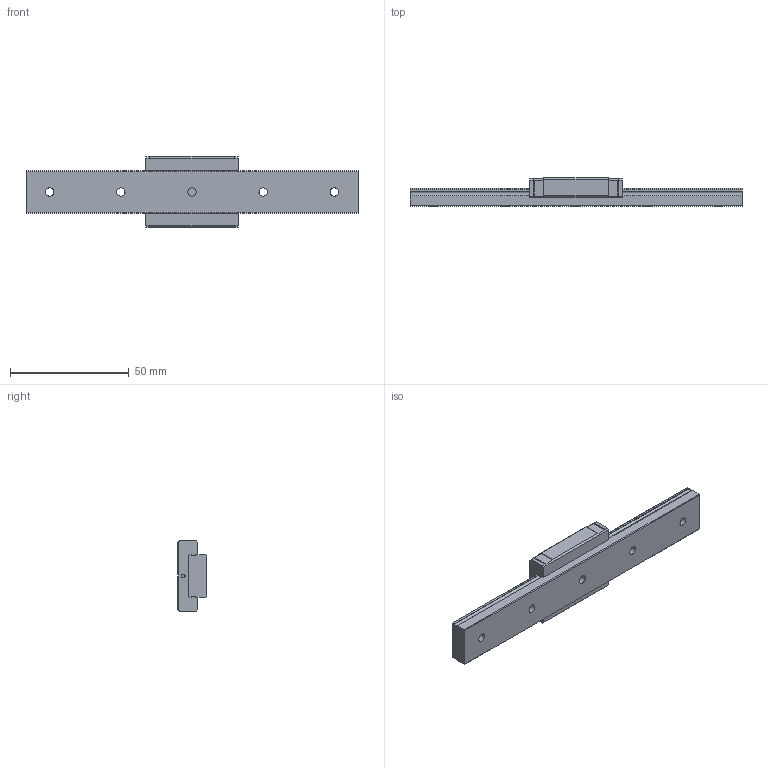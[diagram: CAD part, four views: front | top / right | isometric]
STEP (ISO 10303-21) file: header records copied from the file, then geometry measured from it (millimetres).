
FILE_DESCRIPTION(/* description */ ('STEP AP203'),/* implementation_level */ '2;1');
FILE_NAME(/* name */ 'RSX9M1WUUE-140LM_G10_0_Without grease nipple_50-5_0_0_0_1',/* time_stamp */ '2024-05-23T08:36:47+02:00',/* author */ ('License CC BY-ND 4.0'),/* organization */ ('CADENAS'),/* preprocessor_version */ 'ST-DEVELOPER v19.3',/* originating_system */ 'PARTsolutions',/* authorisation */ ' ');
FILE_SCHEMA (('CONFIG_CONTROL_DESIGN'));
Length unit declared in the file: millimetre
Products named in the file (3): RSX9M1WUUE-140LM_G10_0_Without grease nipple_50-5_0_0_0_1; RSX9M1W14010 Track; RSX9M1WUU1 Slider
Assembly tree (2 placements, depth 2):
  RSX9M1WUUE-140LM_G10_0_Without grease nipple_50-5_0_0_0_1
    RSX9M1W14010 Track
    RSX9M1WUU1 Slider
Bounding box: 140 x 12 x 30 mm (x, y, z)
Volume: 24710.5 mm3; surface area: 11682.1 mm2
Topology: 2 solids, 2 shells, 115 faces, 296 edges, 192 vertices
Faces by surface type: plane 79, cylinder 28, cone 8
Full cylindrical faces by diameter (mm): 1.6 x2, 2.459 x4, 3.5 x5, 6 x5
Entity records: 3381 total; most frequent: CARTESIAN_POINT 570, DIRECTION 560, ORIENTED_EDGE 528, EDGE_CURVE 264, LINE 204, VECTOR 204, VERTEX_POINT 188, AXIS2_PLACEMENT_3D 178
